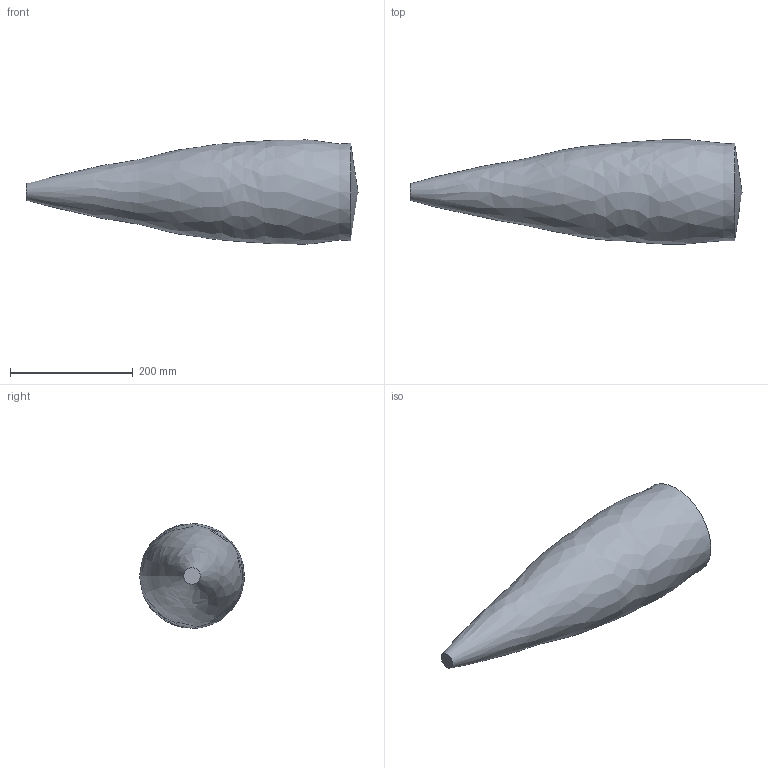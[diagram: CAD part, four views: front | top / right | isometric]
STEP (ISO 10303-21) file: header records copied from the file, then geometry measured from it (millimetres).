
FILE_DESCRIPTION((''),'2;1');
FILE_NAME('J:\Projekte\Kunststoff-Blechteile\Zeichnungen\Bibliothek Inventor\3D Solids\nero\STP\nero-35\detection range 350 plate.stp','2012-02-27T15:18:32',('Oliver Liedtke'),(''),'Autodesk Inventor 2009','Autodesk Inventor 2009','');
FILE_SCHEMA(('AUTOMOTIVE_DESIGN { 1 0 10303 214 1 1 1 1 }'));
Length unit declared in the file: millimetre
Products named in the file (1): detection range 350 plate
Bounding box: 540 x 170.57 x 169.89 mm (x, y, z)
Volume: 7297573.2 mm3; surface area: 229011.6 mm2
Topology: 1 solids, 1 shells, 3 faces, 5 edges, 3 vertices
Faces by surface type: revolution 1, cone 1, plane 1
Entity records: 117 total; most frequent: CARTESIAN_POINT 32, DIRECTION 11, ORIENTED_EDGE 6, AXIS2_PLACEMENT_3D 5, EDGE_CURVE 3, EDGE_LOOP 3, FACE_OUTER_BOUND 3, ADVANCED_FACE 3
